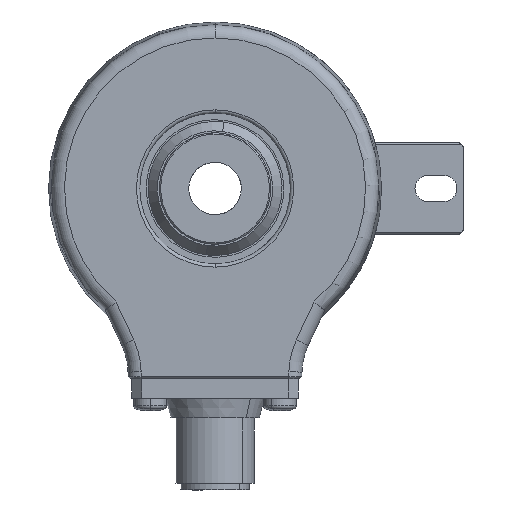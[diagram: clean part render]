
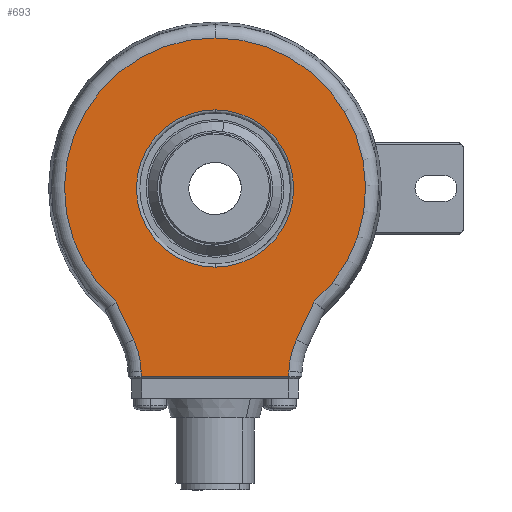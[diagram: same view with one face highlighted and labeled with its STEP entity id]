
A CAD part, left-side view. The second image highlights one B-rep face of the part: STEP entity #693.
In plain terms, the highlighted planar face has unit normal (-1, 0, 0).
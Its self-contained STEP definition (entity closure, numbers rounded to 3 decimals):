
#57 = CIRCLE ( 'NONE', #148, 22.972 ) ;
#125 = DIRECTION ( 'NONE',  ( 0., -0.423, 0.906 ) ) ;
#126 = VECTOR ( 'NONE', #125, 1000. ) ;
#127 = CARTESIAN_POINT ( 'NONE',  ( -21., -14.953, -17.615 ) ) ;
#131 = LINE ( 'NONE', #127, #126 ) ;
#133 = DIRECTION ( 'NONE',  ( 0., 0., 1. ) ) ;
#134 = DIRECTION ( 'NONE',  ( 1., 0., 0. ) ) ;
#135 = CARTESIAN_POINT ( 'NONE',  ( -21., 23.266, -28.183 ) ) ;
#136 = AXIS2_PLACEMENT_3D ( 'NONE', #135, #134, #133 ) ;
#137 = CIRCLE ( 'NONE', #136, 12. ) ;
#138 = CARTESIAN_POINT ( 'NONE',  ( -21., 11.268, -27.974 ) ) ;
#145 = DIRECTION ( 'NONE',  ( 0., 0., 1. ) ) ;
#146 = DIRECTION ( 'NONE',  ( -1., 0., 0. ) ) ;
#147 = CARTESIAN_POINT ( 'NONE',  ( -21., 0., 0. ) ) ;
#148 = AXIS2_PLACEMENT_3D ( 'NONE', #147, #146, #145 ) ;
#330 = EDGE_CURVE ( 'NONE', #456, #353, #57, .T. ) ;
#333 = VERTEX_POINT ( 'NONE', #138 ) ;
#335 = EDGE_CURVE ( 'NONE', #444, #333, #137, .T. ) ;
#338 = EDGE_CURVE ( 'NONE', #379, #456, #131, .T. ) ;
#351 = VERTEX_POINT ( 'NONE', #11742 ) ;
#353 = VERTEX_POINT ( 'NONE', #11741 ) ;
#365 = EDGE_CURVE ( 'NONE', #353, #366, #11865, .T. ) ;
#366 = VERTEX_POINT ( 'NONE', #11760 ) ;
#379 = VERTEX_POINT ( 'NONE', #11821 ) ;
#381 = EDGE_CURVE ( 'NONE', #351, #379, #11819, .T. ) ;
#444 = VERTEX_POINT ( 'NONE', #12031 ) ;
#456 = VERTEX_POINT ( 'NONE', #12129 ) ;
#460 = EDGE_CURVE ( 'NONE', #366, #444, #12092, .T. ) ;
#479 = EDGE_CURVE ( 'NONE', #480, #515, #12264, .T. ) ;
#480 = VERTEX_POINT ( 'NONE', #12227 ) ;
#515 = VERTEX_POINT ( 'NONE', #12171 ) ;
#632 = EDGE_CURVE ( 'NONE', #333, #669, #12559, .T. ) ;
#669 = VERTEX_POINT ( 'NONE', #12819 ) ;
#693 = ADVANCED_FACE ( 'NONE', ( #12836, #12816 ), #12904, .F. ) ;
#699 = ORIENTED_EDGE ( 'NONE', *, *, #917, .T. ) ;
#700 = EDGE_LOOP ( 'NONE', ( #708, #709, #711, #704, #920, #850, #851, #852, #853 ) ) ;
#703 = EDGE_CURVE ( 'NONE', #714, #351, #12885, .T. ) ;
#704 = ORIENTED_EDGE ( 'NONE', *, *, #381, .T. ) ;
#708 = ORIENTED_EDGE ( 'NONE', *, *, #632, .T. ) ;
#709 = ORIENTED_EDGE ( 'NONE', *, *, #788, .T. ) ;
#711 = ORIENTED_EDGE ( 'NONE', *, *, #703, .T. ) ;
#714 = VERTEX_POINT ( 'NONE', #12903 ) ;
#763 = ORIENTED_EDGE ( 'NONE', *, *, #479, .T. ) ;
#788 = EDGE_CURVE ( 'NONE', #669, #714, #14075, .T. ) ;
#850 = ORIENTED_EDGE ( 'NONE', *, *, #330, .T. ) ;
#851 = ORIENTED_EDGE ( 'NONE', *, *, #365, .T. ) ;
#852 = ORIENTED_EDGE ( 'NONE', *, *, #460, .T. ) ;
#853 = ORIENTED_EDGE ( 'NONE', *, *, #335, .T. ) ;
#917 = EDGE_CURVE ( 'NONE', #515, #480, #14383, .T. ) ;
#918 = EDGE_LOOP ( 'NONE', ( #763, #699 ) ) ;
#920 = ORIENTED_EDGE ( 'NONE', *, *, #338, .T. ) ;
#11741 = CARTESIAN_POINT ( 'NONE',  ( -21., 0., 22.972 ) ) ;
#11742 = CARTESIAN_POINT ( 'NONE',  ( -21., -11.268, -27.974 ) ) ;
#11760 = CARTESIAN_POINT ( 'NONE',  ( -21., 15.091, -17.32 ) ) ;
#11761 = DIRECTION ( 'NONE',  ( 0., 0., 1. ) ) ;
#11762 = DIRECTION ( 'NONE',  ( -1., 0., 0. ) ) ;
#11815 = DIRECTION ( 'NONE',  ( 0., 0., 1. ) ) ;
#11816 = DIRECTION ( 'NONE',  ( 1., 0., 0. ) ) ;
#11817 = CARTESIAN_POINT ( 'NONE',  ( -21., -23.266, -28.183 ) ) ;
#11818 = AXIS2_PLACEMENT_3D ( 'NONE', #11817, #11816, #11815 ) ;
#11819 = CIRCLE ( 'NONE', #11818, 12. ) ;
#11821 = CARTESIAN_POINT ( 'NONE',  ( -21., -12.39, -23.112 ) ) ;
#11863 = CARTESIAN_POINT ( 'NONE',  ( -21., 0., 0. ) ) ;
#11864 = AXIS2_PLACEMENT_3D ( 'NONE', #11863, #11762, #11761 ) ;
#11865 = CIRCLE ( 'NONE', #11864, 22.972 ) ;
#12031 = CARTESIAN_POINT ( 'NONE',  ( -21., 12.39, -23.112 ) ) ;
#12081 = DIRECTION ( 'NONE',  ( 0., -0.423, -0.906 ) ) ;
#12090 = VECTOR ( 'NONE', #12081, 1000. ) ;
#12091 = CARTESIAN_POINT ( 'NONE',  ( -21., 12.39, -23.112 ) ) ;
#12092 = LINE ( 'NONE', #12091, #12090 ) ;
#12129 = CARTESIAN_POINT ( 'NONE',  ( -21., -15.091, -17.32 ) ) ;
#12171 = CARTESIAN_POINT ( 'NONE',  ( -21., 0., -12. ) ) ;
#12227 = CARTESIAN_POINT ( 'NONE',  ( -21., 0., 12. ) ) ;
#12228 = DIRECTION ( 'NONE',  ( 0., 0., 1. ) ) ;
#12262 = DIRECTION ( 'NONE',  ( 1., 0., 0. ) ) ;
#12263 = AXIS2_PLACEMENT_3D ( 'NONE', #12312, #12262, #12228 ) ;
#12264 = CIRCLE ( 'NONE', #12263, 12. ) ;
#12312 = CARTESIAN_POINT ( 'NONE',  ( -21., 0., 0. ) ) ;
#12556 = DIRECTION ( 'NONE',  ( 0., -0.017, -1. ) ) ;
#12557 = VECTOR ( 'NONE', #12556, 1000. ) ;
#12558 = CARTESIAN_POINT ( 'NONE',  ( -21., 11.752, -0.205 ) ) ;
#12559 = LINE ( 'NONE', #12558, #12557 ) ;
#12816 = FACE_OUTER_BOUND ( 'NONE', #700, .T. ) ;
#12819 = CARTESIAN_POINT ( 'NONE',  ( -21., 11.255, -28.695 ) ) ;
#12836 = FACE_BOUND ( 'NONE', #918, .T. ) ;
#12868 = CARTESIAN_POINT ( 'NONE',  ( -21., 0., 0. ) ) ;
#12872 = AXIS2_PLACEMENT_3D ( 'NONE', #12868, #12880, #12891 ) ;
#12876 = CARTESIAN_POINT ( 'NONE',  ( -21., -11.752, -0.205 ) ) ;
#12880 = DIRECTION ( 'NONE',  ( 1., 0., 0. ) ) ;
#12885 = LINE ( 'NONE', #12876, #12889 ) ;
#12889 = VECTOR ( 'NONE', #12905, 1000. ) ;
#12891 = DIRECTION ( 'NONE',  ( 0., 0., 1. ) ) ;
#12903 = CARTESIAN_POINT ( 'NONE',  ( -21., -11.255, -28.695 ) ) ;
#12904 = PLANE ( 'NONE',  #12872 ) ;
#12905 = DIRECTION ( 'NONE',  ( 0., -0.017, 1. ) ) ;
#14066 = DIRECTION ( 'NONE',  ( 0., -1., 0. ) ) ;
#14067 = VECTOR ( 'NONE', #14066, 1000. ) ;
#14068 = CARTESIAN_POINT ( 'NONE',  ( -21., -11.25, -28.695 ) ) ;
#14075 = LINE ( 'NONE', #14068, #14067 ) ;
#14358 = DIRECTION ( 'NONE',  ( 1., 0., 0. ) ) ;
#14359 = CARTESIAN_POINT ( 'NONE',  ( -21., 0., 0. ) ) ;
#14360 = AXIS2_PLACEMENT_3D ( 'NONE', #14359, #14358, #14367 ) ;
#14367 = DIRECTION ( 'NONE',  ( 0., 0., 1. ) ) ;
#14383 = CIRCLE ( 'NONE', #14360, 12. ) ;
